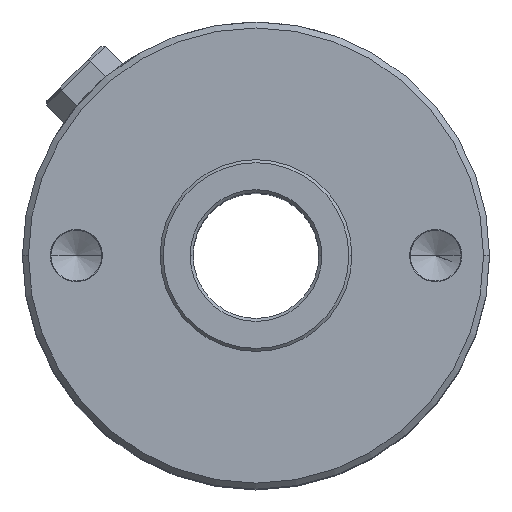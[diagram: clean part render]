
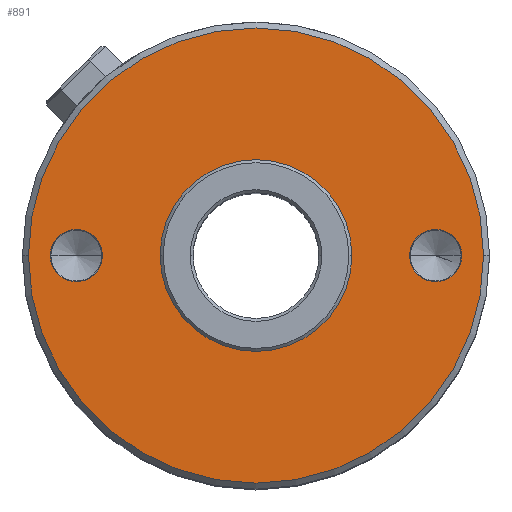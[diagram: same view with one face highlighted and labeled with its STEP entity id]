
A CAD part, top view. The second image highlights one B-rep face of the part: STEP entity #891.
In plain terms, the highlighted planar face has unit normal (0, 0, 1).
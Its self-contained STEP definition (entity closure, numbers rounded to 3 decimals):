
#9 = AXIS2_PLACEMENT_3D ( 'NONE', #340, #334, #801 ) ;
#83 = VERTEX_POINT ( 'NONE', #2025 ) ;
#116 = DIRECTION ( 'NONE',  ( 0., 0., 1. ) ) ;
#117 = ORIENTED_EDGE ( 'NONE', *, *, #822, .T. ) ;
#129 = CARTESIAN_POINT ( 'NONE',  ( 30., 0., 82. ) ) ;
#166 = AXIS2_PLACEMENT_3D ( 'NONE', #267, #375, #475 ) ;
#195 = EDGE_CURVE ( 'NONE', #314, #202, #1209, .T. ) ;
#202 = VERTEX_POINT ( 'NONE', #621 ) ;
#216 = EDGE_LOOP ( 'NONE', ( #881, #1531 ) ) ;
#227 = DIRECTION ( 'NONE',  ( 0., 0., -1. ) ) ;
#250 = CARTESIAN_POINT ( 'NONE',  ( -34.35, 0., 82. ) ) ;
#267 = CARTESIAN_POINT ( 'NONE',  ( -30., 0., 82. ) ) ;
#313 = DIRECTION ( 'NONE',  ( 1., 0., 0. ) ) ;
#314 = VERTEX_POINT ( 'NONE', #1595 ) ;
#334 = DIRECTION ( 'NONE',  ( 0., 0., 1. ) ) ;
#340 = CARTESIAN_POINT ( 'NONE',  ( 0., 0., 82. ) ) ;
#375 = DIRECTION ( 'NONE',  ( 0., 0., -1. ) ) ;
#394 = DIRECTION ( 'NONE',  ( 0., 0., 1. ) ) ;
#452 = EDGE_CURVE ( 'NONE', #705, #1988, #1945, .T. ) ;
#472 = PLANE ( 'NONE',  #9 ) ;
#475 = DIRECTION ( 'NONE',  ( 1., 0., 0. ) ) ;
#621 = CARTESIAN_POINT ( 'NONE',  ( -16., 0., 82. ) ) ;
#625 = AXIS2_PLACEMENT_3D ( 'NONE', #926, #116, #963 ) ;
#638 = AXIS2_PLACEMENT_3D ( 'NONE', #1217, #1265, #1054 ) ;
#697 = CARTESIAN_POINT ( 'NONE',  ( 0., 0., 82. ) ) ;
#705 = VERTEX_POINT ( 'NONE', #864 ) ;
#712 = EDGE_CURVE ( 'NONE', #1988, #705, #1997, .T. ) ;
#728 = EDGE_CURVE ( 'NONE', #1989, #83, #2089, .T. ) ;
#745 = DIRECTION ( 'NONE',  ( 0., 0., -1. ) ) ;
#763 = AXIS2_PLACEMENT_3D ( 'NONE', #929, #394, #2036 ) ;
#770 = VERTEX_POINT ( 'NONE', #250 ) ;
#772 = DIRECTION ( 'NONE',  ( 1., 0., 0. ) ) ;
#787 = DIRECTION ( 'NONE',  ( 0., 0., 1. ) ) ;
#801 = DIRECTION ( 'NONE',  ( 1., 0., 0. ) ) ;
#822 = EDGE_CURVE ( 'NONE', #770, #1740, #1843, .T. ) ;
#860 = EDGE_CURVE ( 'NONE', #1740, #770, #1403, .T. ) ;
#864 = CARTESIAN_POINT ( 'NONE',  ( -38., 0., 82. ) ) ;
#881 = ORIENTED_EDGE ( 'NONE', *, *, #1909, .T. ) ;
#891 = ADVANCED_FACE ( 'NONE', ( #1424, #1388, #1433, #916 ), #472, .T. ) ;
#916 = FACE_BOUND ( 'NONE', #1927, .T. ) ;
#926 = CARTESIAN_POINT ( 'NONE',  ( 0., 0., 82. ) ) ;
#929 = CARTESIAN_POINT ( 'NONE',  ( 0., 0., 82. ) ) ;
#956 = CIRCLE ( 'NONE', #1082, 4.35 ) ;
#963 = DIRECTION ( 'NONE',  ( 1., 0., 0. ) ) ;
#1054 = DIRECTION ( 'NONE',  ( 1., 0., 0. ) ) ;
#1082 = AXIS2_PLACEMENT_3D ( 'NONE', #1752, #745, #1898 ) ;
#1107 = CARTESIAN_POINT ( 'NONE',  ( 25.65, 0., 82. ) ) ;
#1191 = AXIS2_PLACEMENT_3D ( 'NONE', #129, #227, #313 ) ;
#1209 = CIRCLE ( 'NONE', #1773, 16. ) ;
#1217 = CARTESIAN_POINT ( 'NONE',  ( -30., 0., 82. ) ) ;
#1229 = EDGE_CURVE ( 'NONE', #202, #314, #1894, .T. ) ;
#1265 = DIRECTION ( 'NONE',  ( 0., 0., -1. ) ) ;
#1388 = FACE_BOUND ( 'NONE', #216, .T. ) ;
#1403 = CIRCLE ( 'NONE', #638, 4.35 ) ;
#1424 = FACE_OUTER_BOUND ( 'NONE', #1925, .T. ) ;
#1433 = FACE_BOUND ( 'NONE', #1784, .T. ) ;
#1437 = CARTESIAN_POINT ( 'NONE',  ( -25.65, 0., 82. ) ) ;
#1531 = ORIENTED_EDGE ( 'NONE', *, *, #728, .T. ) ;
#1540 = ORIENTED_EDGE ( 'NONE', *, *, #195, .F. ) ;
#1557 = ORIENTED_EDGE ( 'NONE', *, *, #1229, .F. ) ;
#1558 = ORIENTED_EDGE ( 'NONE', *, *, #452, .T. ) ;
#1595 = CARTESIAN_POINT ( 'NONE',  ( 16., 0., 82. ) ) ;
#1610 = CARTESIAN_POINT ( 'NONE',  ( 0., 0., 82. ) ) ;
#1618 = DIRECTION ( 'NONE',  ( 0., 0., 1. ) ) ;
#1625 = DIRECTION ( 'NONE',  ( 1., 0., 0. ) ) ;
#1668 = ORIENTED_EDGE ( 'NONE', *, *, #712, .T. ) ;
#1734 = ORIENTED_EDGE ( 'NONE', *, *, #860, .T. ) ;
#1740 = VERTEX_POINT ( 'NONE', #1437 ) ;
#1752 = CARTESIAN_POINT ( 'NONE',  ( 30., 0., 82. ) ) ;
#1773 = AXIS2_PLACEMENT_3D ( 'NONE', #697, #787, #772 ) ;
#1784 = EDGE_LOOP ( 'NONE', ( #1734, #117 ) ) ;
#1843 = CIRCLE ( 'NONE', #166, 4.35 ) ;
#1894 = CIRCLE ( 'NONE', #1952, 16. ) ;
#1898 = DIRECTION ( 'NONE',  ( 1., 0., 0. ) ) ;
#1904 = CARTESIAN_POINT ( 'NONE',  ( 38., 0., 82. ) ) ;
#1909 = EDGE_CURVE ( 'NONE', #83, #1989, #956, .T. ) ;
#1925 = EDGE_LOOP ( 'NONE', ( #1558, #1668 ) ) ;
#1927 = EDGE_LOOP ( 'NONE', ( #1557, #1540 ) ) ;
#1945 = CIRCLE ( 'NONE', #763, 38. ) ;
#1952 = AXIS2_PLACEMENT_3D ( 'NONE', #1610, #1618, #1625 ) ;
#1988 = VERTEX_POINT ( 'NONE', #1904 ) ;
#1989 = VERTEX_POINT ( 'NONE', #1107 ) ;
#1997 = CIRCLE ( 'NONE', #625, 38. ) ;
#2025 = CARTESIAN_POINT ( 'NONE',  ( 34.35, 0., 82. ) ) ;
#2036 = DIRECTION ( 'NONE',  ( 1., 0., 0. ) ) ;
#2089 = CIRCLE ( 'NONE', #1191, 4.35 ) ;
